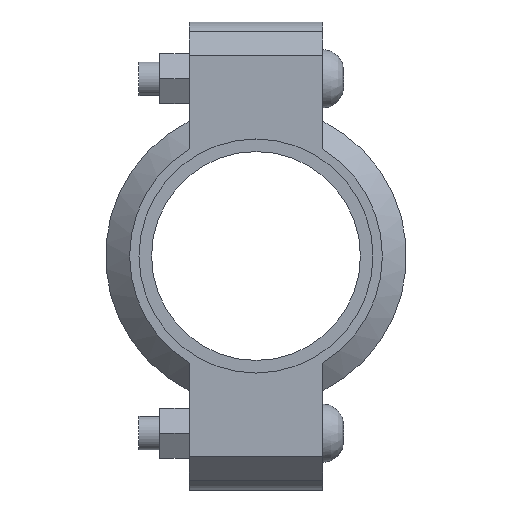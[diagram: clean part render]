
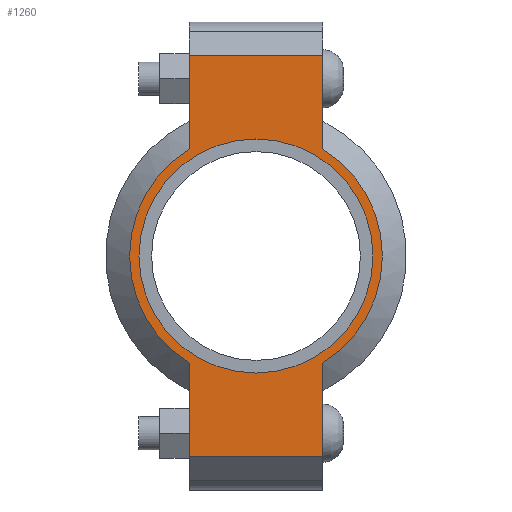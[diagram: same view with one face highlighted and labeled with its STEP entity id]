
A CAD part, left-side view. The second image highlights one B-rep face of the part: STEP entity #1260.
In plain terms, the highlighted planar face has unit normal (-1, 0, 0) as drawn and (0, 0, 1) by its records, which use the part's own axes.
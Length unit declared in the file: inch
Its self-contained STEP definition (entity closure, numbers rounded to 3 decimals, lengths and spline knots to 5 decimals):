
#101=LINE('',#2156,#188);
#109=LINE('',#2192,#196);
#116=LINE('',#2213,#203);
#125=LINE('',#2245,#212);
#126=LINE('',#2249,#213);
#127=LINE('',#2251,#214);
#188=VECTOR('',#1755,0.3937);
#196=VECTOR('',#1771,0.3937);
#203=VECTOR('',#1790,0.3937);
#212=VECTOR('',#1815,0.3937);
#213=VECTOR('',#1820,0.3937);
#214=VECTOR('',#1821,0.3937);
#258=FACE_BOUND('',#406,.T.);
#318=FACE_OUTER_BOUND('',#405,.T.);
#405=EDGE_LOOP('',(#1032,#1033,#1034,#1035,#1036,#1037,#1038,#1039));
#406=EDGE_LOOP('',(#1040));
#454=CIRCLE('',#1415,1.75);
#480=CIRCLE('',#1474,1.89);
#481=CIRCLE('',#1475,1.89);
#522=VERTEX_POINT('',#1972);
#565=VERTEX_POINT('',#2153);
#566=VERTEX_POINT('',#2155);
#577=VERTEX_POINT('',#2187);
#578=VERTEX_POINT('',#2191);
#585=VERTEX_POINT('',#2210);
#586=VERTEX_POINT('',#2212);
#596=VERTEX_POINT('',#2248);
#597=VERTEX_POINT('',#2250);
#648=EDGE_CURVE('',#522,#522,#454,.T.);
#709=EDGE_CURVE('',#566,#565,#101,.T.);
#723=EDGE_CURVE('',#578,#577,#109,.T.);
#733=EDGE_CURVE('',#586,#585,#116,.T.);
#748=EDGE_CURVE('',#578,#565,#125,.T.);
#749=EDGE_CURVE('',#577,#586,#480,.T.);
#750=EDGE_CURVE('',#596,#585,#126,.T.);
#751=EDGE_CURVE('',#596,#597,#127,.T.);
#752=EDGE_CURVE('',#597,#566,#481,.T.);
#1032=ORIENTED_EDGE('',*,*,#748,.F.);
#1033=ORIENTED_EDGE('',*,*,#723,.T.);
#1034=ORIENTED_EDGE('',*,*,#749,.T.);
#1035=ORIENTED_EDGE('',*,*,#733,.T.);
#1036=ORIENTED_EDGE('',*,*,#750,.F.);
#1037=ORIENTED_EDGE('',*,*,#751,.T.);
#1038=ORIENTED_EDGE('',*,*,#752,.T.);
#1039=ORIENTED_EDGE('',*,*,#709,.T.);
#1040=ORIENTED_EDGE('',*,*,#648,.T.);
#1127=PLANE('',#1473);
#1260=ADVANCED_FACE('',(#318,#258),#1127,.T.);
#1415=AXIS2_PLACEMENT_3D('',#1974,#1631,#1632);
#1473=AXIS2_PLACEMENT_3D('',#2246,#1816,#1817);
#1474=AXIS2_PLACEMENT_3D('',#2247,#1818,#1819);
#1475=AXIS2_PLACEMENT_3D('',#2252,#1822,#1823);
#1631=DIRECTION('center_axis',(0.,0.,-1.));
#1632=DIRECTION('ref_axis',(-1.,0.,0.));
#1755=DIRECTION('',(-1.,0.,0.));
#1771=DIRECTION('',(1.,0.,0.));
#1790=DIRECTION('',(1.,0.,0.));
#1815=DIRECTION('',(0.,1.,0.));
#1816=DIRECTION('center_axis',(0.,0.,1.));
#1817=DIRECTION('ref_axis',(1.,0.,0.));
#1818=DIRECTION('center_axis',(0.,0.,1.));
#1819=DIRECTION('ref_axis',(-1.,0.,0.));
#1820=DIRECTION('',(0.,-1.,0.));
#1821=DIRECTION('',(-1.,0.,0.));
#1822=DIRECTION('center_axis',(0.,0.,1.));
#1823=DIRECTION('ref_axis',(-1.,0.,0.));
#1972=CARTESIAN_POINT('',(1.75,0.,0.94));
#1974=CARTESIAN_POINT('Origin',(0.,0.,0.94));
#2153=CARTESIAN_POINT('',(-3.,1.,0.94));
#2155=CARTESIAN_POINT('',(-1.60378,1.,0.94));
#2156=CARTESIAN_POINT('',(-3.5,1.,0.94));
#2187=CARTESIAN_POINT('',(-1.60378,-1.,0.94));
#2191=CARTESIAN_POINT('',(-3.,-1.,0.94));
#2192=CARTESIAN_POINT('',(3.5,-1.,0.94));
#2210=CARTESIAN_POINT('',(3.,-1.,0.94));
#2212=CARTESIAN_POINT('',(1.60378,-1.,0.94));
#2213=CARTESIAN_POINT('',(3.5,-1.,0.94));
#2245=CARTESIAN_POINT('',(-3.,0.5,0.94));
#2246=CARTESIAN_POINT('Origin',(0.,0.,
0.94));
#2247=CARTESIAN_POINT('Origin',(0.,0.,0.94));
#2248=CARTESIAN_POINT('',(3.,1.,0.94));
#2249=CARTESIAN_POINT('',(3.,-0.5,0.94));
#2250=CARTESIAN_POINT('',(1.60378,1.,0.94));
#2251=CARTESIAN_POINT('',(-3.5,1.,0.94));
#2252=CARTESIAN_POINT('Origin',(0.,0.,0.94));
